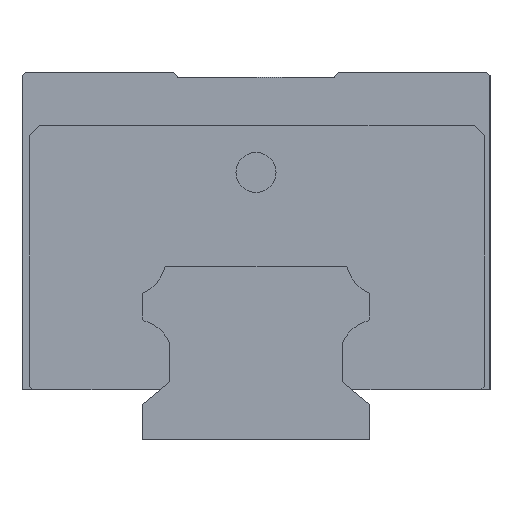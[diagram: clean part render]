
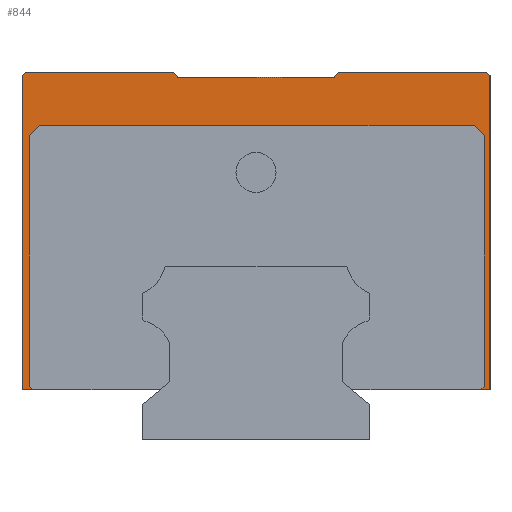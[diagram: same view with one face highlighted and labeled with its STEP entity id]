
A CAD part, left-side view. The second image highlights one B-rep face of the part: STEP entity #844.
In plain terms, the highlighted planar face has unit normal (-1, 0, 0).
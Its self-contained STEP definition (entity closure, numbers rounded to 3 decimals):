
#36 = LINE ( 'NONE', #5416, #2048 ) ;
#120 = DIRECTION ( 'NONE',  ( 0., -0.707, -0.707 ) ) ;
#177 = LINE ( 'NONE', #3770, #1978 ) ;
#218 = VECTOR ( 'NONE', #5689, 1000. ) ;
#236 = EDGE_CURVE ( 'NONE', #1804, #2543, #1299, .T. ) ;
#335 = LINE ( 'NONE', #3498, #4542 ) ;
#360 = LINE ( 'NONE', #5271, #5571 ) ;
#420 = DIRECTION ( 'NONE',  ( 0., 0., 1. ) ) ;
#465 = ORIENTED_EDGE ( 'NONE', *, *, #777, .F. ) ;
#513 = CARTESIAN_POINT ( 'NONE',  ( -61.5, 33.872, 45.5 ) ) ;
#547 = ORIENTED_EDGE ( 'NONE', *, *, #3450, .F. ) ;
#556 = DIRECTION ( 'NONE',  ( 1., 0., 0. ) ) ;
#621 = CARTESIAN_POINT ( 'NONE',  ( -61.5, -35., 54.5 ) ) ;
#633 = EDGE_CURVE ( 'NONE', #2526, #834, #738, .T. ) ;
#646 = CARTESIAN_POINT ( 'NONE',  ( -61.5, 12.296, 55. ) ) ;
#664 = ORIENTED_EDGE ( 'NONE', *, *, #633, .F. ) ;
#666 = DIRECTION ( 'NONE',  ( 0., 0.707, 0.707 ) ) ;
#738 = LINE ( 'NONE', #1648, #1588 ) ;
#749 = LINE ( 'NONE', #3380, #3687 ) ;
#777 = EDGE_CURVE ( 'NONE', #5583, #4665, #177, .T. ) ;
#834 = VERTEX_POINT ( 'NONE', #646 ) ;
#844 = ADVANCED_FACE ( 'NONE', ( #3679 ), #5459, .F. ) ;
#937 = VERTEX_POINT ( 'NONE', #1179 ) ;
#955 = CARTESIAN_POINT ( 'NONE',  ( -61.5, 32.372, 47. ) ) ;
#985 = DIRECTION ( 'NONE',  ( 0., 0.707, -0.707 ) ) ;
#1000 = VECTOR ( 'NONE', #985, 1000. ) ;
#1023 = EDGE_CURVE ( 'NONE', #1545, #937, #3515, .T. ) ;
#1035 = LINE ( 'NONE', #2507, #3680 ) ;
#1074 = CARTESIAN_POINT ( 'NONE',  ( -61.5, -12.296, 55. ) ) ;
#1099 = DIRECTION ( 'NONE',  ( 0., 0., -1. ) ) ;
#1151 = ORIENTED_EDGE ( 'NONE', *, *, #3114, .F. ) ;
#1179 = CARTESIAN_POINT ( 'NONE',  ( -61.5, 33.872, 8. ) ) ;
#1299 = LINE ( 'NONE', #2641, #1898 ) ;
#1352 = DIRECTION ( 'NONE',  ( 0., 1., 0. ) ) ;
#1386 = CARTESIAN_POINT ( 'NONE',  ( -61.5, -34.5, 55. ) ) ;
#1458 = ORIENTED_EDGE ( 'NONE', *, *, #2001, .T. ) ;
#1471 = CARTESIAN_POINT ( 'NONE',  ( -61.5, -35., 55. ) ) ;
#1475 = VERTEX_POINT ( 'NONE', #2120 ) ;
#1519 = CARTESIAN_POINT ( 'NONE',  ( -61.5, -33.628, 7.5 ) ) ;
#1545 = VERTEX_POINT ( 'NONE', #513 ) ;
#1563 = VECTOR ( 'NONE', #2529, 1000. ) ;
#1569 = CARTESIAN_POINT ( 'NONE',  ( -61.5, 11.667, 54.25 ) ) ;
#1588 = VECTOR ( 'NONE', #3865, 1000. ) ;
#1648 = CARTESIAN_POINT ( 'NONE',  ( -61.5, 35., 55. ) ) ;
#1762 = CARTESIAN_POINT ( 'NONE',  ( -61.5, 11.667, 54.25 ) ) ;
#1804 = VERTEX_POINT ( 'NONE', #2206 ) ;
#1862 = VERTEX_POINT ( 'NONE', #2528 ) ;
#1898 = VECTOR ( 'NONE', #1352, 1000. ) ;
#1961 = DIRECTION ( 'NONE',  ( 0., 0.643, 0.766 ) ) ;
#1978 = VECTOR ( 'NONE', #2326, 1000. ) ;
#2001 = EDGE_CURVE ( 'NONE', #2526, #3205, #5382, .T. ) ;
#2048 = VECTOR ( 'NONE', #420, 1000. ) ;
#2052 = CARTESIAN_POINT ( 'NONE',  ( -61.5, -12.296, 55. ) ) ;
#2081 = DIRECTION ( 'NONE',  ( 0., -0.707, 0.707 ) ) ;
#2120 = CARTESIAN_POINT ( 'NONE',  ( -61.5, 32.372, 47. ) ) ;
#2176 = DIRECTION ( 'NONE',  ( 0., 0., -1. ) ) ;
#2206 = CARTESIAN_POINT ( 'NONE',  ( -61.5, -35., 7.5 ) ) ;
#2207 = EDGE_CURVE ( 'NONE', #4958, #3177, #4660, .T. ) ;
#2247 = CARTESIAN_POINT ( 'NONE',  ( -61.5, 35., 54.5 ) ) ;
#2249 = EDGE_CURVE ( 'NONE', #3353, #3901, #360, .T. ) ;
#2250 = ORIENTED_EDGE ( 'NONE', *, *, #2814, .F. ) ;
#2262 = ORIENTED_EDGE ( 'NONE', *, *, #2207, .T. ) ;
#2286 = EDGE_CURVE ( 'NONE', #3887, #1475, #5794, .T. ) ;
#2318 = ORIENTED_EDGE ( 'NONE', *, *, #5372, .F. ) ;
#2326 = DIRECTION ( 'NONE',  ( 0., 0., 1. ) ) ;
#2364 = ORIENTED_EDGE ( 'NONE', *, *, #4974, .T. ) ;
#2419 = ORIENTED_EDGE ( 'NONE', *, *, #5241, .F. ) ;
#2431 = CARTESIAN_POINT ( 'NONE',  ( -61.5, -11.667, 54.25 ) ) ;
#2507 = CARTESIAN_POINT ( 'NONE',  ( -61.5, 33.872, 8. ) ) ;
#2526 = VERTEX_POINT ( 'NONE', #5588 ) ;
#2528 = CARTESIAN_POINT ( 'NONE',  ( -61.5, 33.372, 7.5 ) ) ;
#2529 = DIRECTION ( 'NONE',  ( 0., 1., 0. ) ) ;
#2543 = VERTEX_POINT ( 'NONE', #1519 ) ;
#2634 = CARTESIAN_POINT ( 'NONE',  ( -61.5, -32.628, 47. ) ) ;
#2641 = CARTESIAN_POINT ( 'NONE',  ( -61.5, -35., 7.5 ) ) ;
#2695 = ORIENTED_EDGE ( 'NONE', *, *, #4567, .T. ) ;
#2809 = ORIENTED_EDGE ( 'NONE', *, *, #3731, .F. ) ;
#2812 = CARTESIAN_POINT ( 'NONE',  ( -61.5, -34.128, 8. ) ) ;
#2814 = EDGE_CURVE ( 'NONE', #1475, #1545, #3226, .T. ) ;
#2835 = EDGE_LOOP ( 'NONE', ( #465, #547, #3130, #2318, #2262, #5206, #2364, #3705, #2695, #664, #1458, #2419, #1151, #2809, #5137, #2250, #4792, #3900 ) ) ;
#2866 = DIRECTION ( 'NONE',  ( 0., 0.643, -0.766 ) ) ;
#3070 = DIRECTION ( 'NONE',  ( 0., 1., 0. ) ) ;
#3114 = EDGE_CURVE ( 'NONE', #1862, #5677, #5281, .T. ) ;
#3130 = ORIENTED_EDGE ( 'NONE', *, *, #236, .F. ) ;
#3177 = VERTEX_POINT ( 'NONE', #1386 ) ;
#3205 = VERTEX_POINT ( 'NONE', #2247 ) ;
#3226 = LINE ( 'NONE', #955, #1000 ) ;
#3237 = CARTESIAN_POINT ( 'NONE',  ( -61.5, -35., 55. ) ) ;
#3239 = VECTOR ( 'NONE', #666, 1000. ) ;
#3277 = LINE ( 'NONE', #1471, #5413 ) ;
#3353 = VERTEX_POINT ( 'NONE', #2431 ) ;
#3380 = CARTESIAN_POINT ( 'NONE',  ( -61.5, 35., 55. ) ) ;
#3383 = CARTESIAN_POINT ( 'NONE',  ( -61.5, -35., 54.5 ) ) ;
#3450 = EDGE_CURVE ( 'NONE', #2543, #5583, #335, .T. ) ;
#3491 = VERTEX_POINT ( 'NONE', #2052 ) ;
#3498 = CARTESIAN_POINT ( 'NONE',  ( -61.5, -33.628, 7.5 ) ) ;
#3515 = LINE ( 'NONE', #5294, #3521 ) ;
#3521 = VECTOR ( 'NONE', #2176, 1000. ) ;
#3522 = EDGE_CURVE ( 'NONE', #3491, #3177, #749, .T. ) ;
#3631 = DIRECTION ( 'NONE',  ( 0., 0.707, -0.707 ) ) ;
#3679 = FACE_OUTER_BOUND ( 'NONE', #2835, .T. ) ;
#3680 = VECTOR ( 'NONE', #120, 1000. ) ;
#3687 = VECTOR ( 'NONE', #4290, 1000. ) ;
#3705 = ORIENTED_EDGE ( 'NONE', *, *, #2249, .T. ) ;
#3731 = EDGE_CURVE ( 'NONE', #937, #1862, #1035, .T. ) ;
#3746 = DIRECTION ( 'NONE',  ( 0., 1., 0. ) ) ;
#3770 = CARTESIAN_POINT ( 'NONE',  ( -61.5, -34.128, 8. ) ) ;
#3865 = DIRECTION ( 'NONE',  ( 0., -1., 0. ) ) ;
#3887 = VERTEX_POINT ( 'NONE', #4882 ) ;
#3900 = ORIENTED_EDGE ( 'NONE', *, *, #4157, .F. ) ;
#3901 = VERTEX_POINT ( 'NONE', #1762 ) ;
#4157 = EDGE_CURVE ( 'NONE', #4665, #3887, #4705, .T. ) ;
#4258 = LINE ( 'NONE', #1569, #5782 ) ;
#4290 = DIRECTION ( 'NONE',  ( 0., -1., 0. ) ) ;
#4542 = VECTOR ( 'NONE', #2081, 1000. ) ;
#4567 = EDGE_CURVE ( 'NONE', #3901, #834, #4258, .T. ) ;
#4660 = LINE ( 'NONE', #621, #5095 ) ;
#4665 = VERTEX_POINT ( 'NONE', #5638 ) ;
#4705 = LINE ( 'NONE', #5647, #3239 ) ;
#4792 = ORIENTED_EDGE ( 'NONE', *, *, #2286, .F. ) ;
#4874 = CARTESIAN_POINT ( 'NONE',  ( -61.5, 14.65, 7.5 ) ) ;
#4882 = CARTESIAN_POINT ( 'NONE',  ( -61.5, -32.628, 47. ) ) ;
#4933 = CARTESIAN_POINT ( 'NONE',  ( -61.5, 35., 7.5 ) ) ;
#4958 = VERTEX_POINT ( 'NONE', #3383 ) ;
#4971 = CARTESIAN_POINT ( 'NONE',  ( -61.5, 34.5, 55. ) ) ;
#4974 = EDGE_CURVE ( 'NONE', #3491, #3353, #5100, .T. ) ;
#5095 = VECTOR ( 'NONE', #5295, 1000. ) ;
#5100 = LINE ( 'NONE', #1074, #5700 ) ;
#5137 = ORIENTED_EDGE ( 'NONE', *, *, #1023, .F. ) ;
#5206 = ORIENTED_EDGE ( 'NONE', *, *, #3522, .F. ) ;
#5241 = EDGE_CURVE ( 'NONE', #5677, #3205, #36, .T. ) ;
#5271 = CARTESIAN_POINT ( 'NONE',  ( -61.5, -11.667, 54.25 ) ) ;
#5281 = LINE ( 'NONE', #4874, #1563 ) ;
#5294 = CARTESIAN_POINT ( 'NONE',  ( -61.5, 33.872, 45.5 ) ) ;
#5295 = DIRECTION ( 'NONE',  ( 0., 0.707, 0.707 ) ) ;
#5372 = EDGE_CURVE ( 'NONE', #4958, #1804, #3277, .T. ) ;
#5382 = LINE ( 'NONE', #4971, #5474 ) ;
#5413 = VECTOR ( 'NONE', #1099, 1000. ) ;
#5416 = CARTESIAN_POINT ( 'NONE',  ( -61.5, 35., 7.5 ) ) ;
#5459 = PLANE ( 'NONE',  #5643 ) ;
#5474 = VECTOR ( 'NONE', #3631, 1000. ) ;
#5571 = VECTOR ( 'NONE', #3070, 1000. ) ;
#5583 = VERTEX_POINT ( 'NONE', #2812 ) ;
#5588 = CARTESIAN_POINT ( 'NONE',  ( -61.5, 34.5, 55. ) ) ;
#5638 = CARTESIAN_POINT ( 'NONE',  ( -61.5, -34.128, 45.5 ) ) ;
#5643 = AXIS2_PLACEMENT_3D ( 'NONE', #3237, #556, #3746 ) ;
#5647 = CARTESIAN_POINT ( 'NONE',  ( -61.5, -34.128, 45.5 ) ) ;
#5677 = VERTEX_POINT ( 'NONE', #4933 ) ;
#5689 = DIRECTION ( 'NONE',  ( 0., 1., 0. ) ) ;
#5700 = VECTOR ( 'NONE', #2866, 1000. ) ;
#5782 = VECTOR ( 'NONE', #1961, 1000. ) ;
#5794 = LINE ( 'NONE', #2634, #218 ) ;
